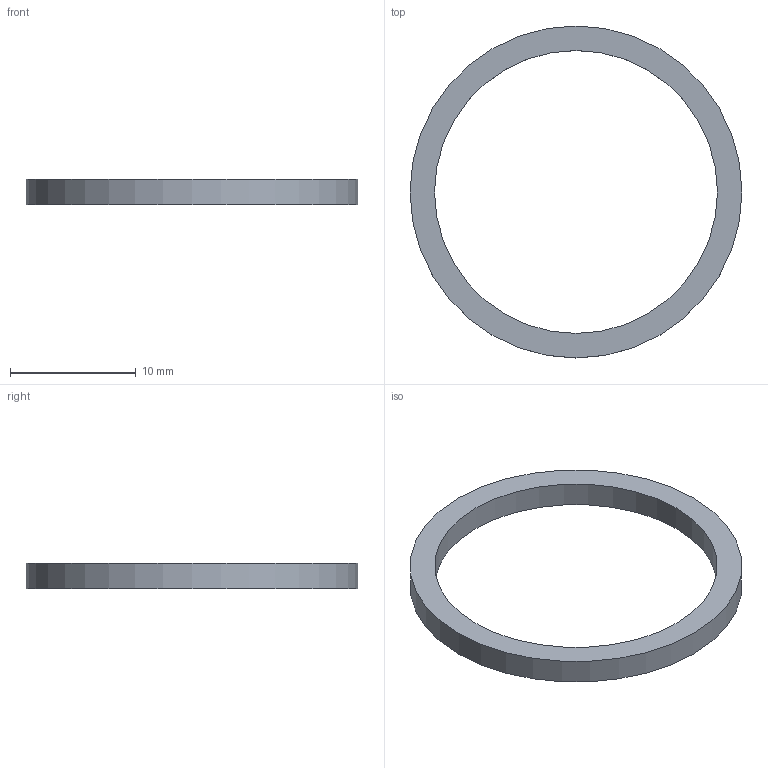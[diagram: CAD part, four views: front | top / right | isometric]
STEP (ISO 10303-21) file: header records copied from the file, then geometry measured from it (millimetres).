
FILE_DESCRIPTION(('Open CASCADE Model'),'2;1');
FILE_NAME('Open CASCADE Shape Model','2026-09-08T13:32:06',('Author'),( 'Open CASCADE'),'Open CASCADE STEP processor 7.7','Open CASCADE 7.7' ,'Unknown');
FILE_SCHEMA(('AUTOMOTIVE_DESIGN { 1 0 10303 214 1 1 1 1 }'));
Length unit declared in the file: millimetre
Products named in the file (1): Open CASCADE STEP translator 7.7 6
Bounding box: 26.4 x 26.4 x 2 mm (x, y, z)
Volume: 299.6 mm3; surface area: 606.8 mm2
Topology: 1 solids, 1 shells, 4 faces, 6 edges, 4 vertices
Faces by surface type: cylinder 2, plane 2
Full cylindrical faces by diameter (mm): 22.5 x1, 26.4 x1
Entity records: 192 total; most frequent: CARTESIAN_POINT 39, DIRECTION 30, ORIENTED_EDGE 12, PCURVE 12, DEFINITIONAL_REPRESENTATION 12, LINE 10, VECTOR 10, AXIS2_PLACEMENT_3D 9
